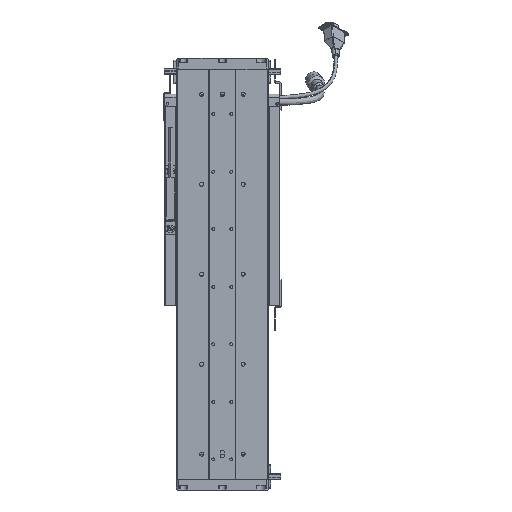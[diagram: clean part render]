
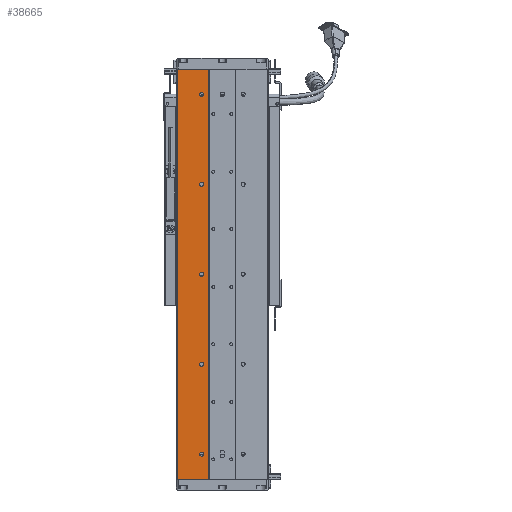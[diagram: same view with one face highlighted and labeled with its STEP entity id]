
A CAD part, front view. The second image highlights one B-rep face of the part: STEP entity #38665.
In plain terms, the highlighted planar face has unit normal (0, -1, 0).
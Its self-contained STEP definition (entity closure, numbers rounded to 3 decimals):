
#587 = VECTOR ( 'NONE', #48394, 1000. ) ;
#633 = CARTESIAN_POINT ( 'NONE',  ( -23., 0.5, 428. ) ) ;
#1584 = EDGE_CURVE ( 'NONE', #41320, #22678, #13159, .T. ) ;
#1966 = FACE_OUTER_BOUND ( 'NONE', #5797, .T. ) ;
#2302 = ORIENTED_EDGE ( 'NONE', *, *, #46335, .T. ) ;
#2683 = CIRCLE ( 'NONE', #46368, 2.25 ) ;
#2895 = DIRECTION ( 'NONE',  ( 0., 0., 1. ) ) ;
#3099 = DIRECTION ( 'NONE',  ( 0., 1., 0. ) ) ;
#3250 = CARTESIAN_POINT ( 'NONE',  ( -50., 0.5, 0. ) ) ;
#3459 = EDGE_CURVE ( 'NONE', #22678, #33540, #60959, .T. ) ;
#3544 = FACE_BOUND ( 'NONE', #5464, .T. ) ;
#4076 = DIRECTION ( 'NONE',  ( 0., 1., 0. ) ) ;
#5464 = EDGE_LOOP ( 'NONE', ( #49079, #21620 ) ) ;
#5566 = ORIENTED_EDGE ( 'NONE', *, *, #1584, .T. ) ;
#5797 = EDGE_LOOP ( 'NONE', ( #5566, #47318, #21130, #50857 ) ) ;
#5923 = AXIS2_PLACEMENT_3D ( 'NONE', #14562, #29080, #63527 ) ;
#7271 = AXIS2_PLACEMENT_3D ( 'NONE', #19538, #23654, #29310 ) ;
#8128 = VERTEX_POINT ( 'NONE', #22176 ) ;
#8233 = AXIS2_PLACEMENT_3D ( 'NONE', #59126, #29255, #38783 ) ;
#8273 = DIRECTION ( 'NONE',  ( 0., 1., 0. ) ) ;
#8313 = VERTEX_POINT ( 'NONE', #47749 ) ;
#9754 = EDGE_LOOP ( 'NONE', ( #15199, #15422 ) ) ;
#9983 = DIRECTION ( 'NONE',  ( 0., 0., 1. ) ) ;
#10069 = EDGE_CURVE ( 'NONE', #8128, #41320, #63692, .T. ) ;
#11351 = CARTESIAN_POINT ( 'NONE',  ( -23., 0.5, 330.25 ) ) ;
#11661 = DIRECTION ( 'NONE',  ( 0., 0., 1. ) ) ;
#11873 = CARTESIAN_POINT ( 'NONE',  ( -23., 0.5, 28. ) ) ;
#12037 = LINE ( 'NONE', #13942, #587 ) ;
#13159 = LINE ( 'NONE', #13814, #20906 ) ;
#13480 = CARTESIAN_POINT ( 'NONE',  ( -23., 0.5, 125.75 ) ) ;
#13742 = CARTESIAN_POINT ( 'NONE',  ( -23., 0.5, 328. ) ) ;
#13814 = CARTESIAN_POINT ( 'NONE',  ( -64.681, 0.5, 456. ) ) ;
#13942 = CARTESIAN_POINT ( 'NONE',  ( -64.681, 0.5, 0. ) ) ;
#14007 = AXIS2_PLACEMENT_3D ( 'NONE', #27781, #3099, #2895 ) ;
#14562 = CARTESIAN_POINT ( 'NONE',  ( -23., 0.5, 428. ) ) ;
#15030 = EDGE_CURVE ( 'NONE', #54848, #31839, #56047, .T. ) ;
#15199 = ORIENTED_EDGE ( 'NONE', *, *, #24462, .T. ) ;
#15409 = CARTESIAN_POINT ( 'NONE',  ( -15., 0.5, 456. ) ) ;
#15422 = ORIENTED_EDGE ( 'NONE', *, *, #56447, .T. ) ;
#16973 = EDGE_LOOP ( 'NONE', ( #39559, #45883 ) ) ;
#17042 = DIRECTION ( 'NONE',  ( 0., 1., 0. ) ) ;
#17116 = ORIENTED_EDGE ( 'NONE', *, *, #62914, .T. ) ;
#17182 = VECTOR ( 'NONE', #37112, 1000. ) ;
#17416 = CARTESIAN_POINT ( 'NONE',  ( -50., 0.5, 0. ) ) ;
#17964 = DIRECTION ( 'NONE',  ( 0., 0., -1. ) ) ;
#18347 = DIRECTION ( 'NONE',  ( 0., 0., 1. ) ) ;
#18832 = CARTESIAN_POINT ( 'NONE',  ( -23., 0.5, 128. ) ) ;
#19538 = CARTESIAN_POINT ( 'NONE',  ( -23., 0.5, 328. ) ) ;
#19977 = AXIS2_PLACEMENT_3D ( 'NONE', #633, #39639, #9983 ) ;
#20040 = DIRECTION ( 'NONE',  ( 0., 0., 1. ) ) ;
#20262 = CIRCLE ( 'NONE', #40565, 2.25 ) ;
#20906 = VECTOR ( 'NONE', #53674, 1000. ) ;
#21130 = ORIENTED_EDGE ( 'NONE', *, *, #55932, .F. ) ;
#21202 = CARTESIAN_POINT ( 'NONE',  ( -23., 0.5, 30.25 ) ) ;
#21620 = ORIENTED_EDGE ( 'NONE', *, *, #35607, .T. ) ;
#22176 = CARTESIAN_POINT ( 'NONE',  ( -15., 0.5, 0. ) ) ;
#22580 = CARTESIAN_POINT ( 'NONE',  ( -15., 0.5, 0. ) ) ;
#22598 = DIRECTION ( 'NONE',  ( 0., 1., 0. ) ) ;
#22678 = VERTEX_POINT ( 'NONE', #42683 ) ;
#22684 = CIRCLE ( 'NONE', #7271, 2.25 ) ;
#23654 = DIRECTION ( 'NONE',  ( 0., 1., 0. ) ) ;
#23759 = DIRECTION ( 'NONE',  ( 0., 0., 1. ) ) ;
#24058 = VERTEX_POINT ( 'NONE', #49812 ) ;
#24093 = EDGE_CURVE ( 'NONE', #31839, #54848, #28203, .T. ) ;
#24462 = EDGE_CURVE ( 'NONE', #24058, #48917, #52962, .T. ) ;
#25322 = CARTESIAN_POINT ( 'NONE',  ( -23., 0.5, 425.75 ) ) ;
#25822 = VERTEX_POINT ( 'NONE', #39643 ) ;
#27781 = CARTESIAN_POINT ( 'NONE',  ( -64.681, 0.5, 0. ) ) ;
#28203 = CIRCLE ( 'NONE', #19977, 2.25 ) ;
#28326 = FACE_BOUND ( 'NONE', #16973, .T. ) ;
#29080 = DIRECTION ( 'NONE',  ( 0., 1., 0. ) ) ;
#29255 = DIRECTION ( 'NONE',  ( 0., 1., 0. ) ) ;
#29310 = DIRECTION ( 'NONE',  ( 0., 0., 1. ) ) ;
#29895 = FACE_BOUND ( 'NONE', #63382, .T. ) ;
#30962 = CARTESIAN_POINT ( 'NONE',  ( -23., 0.5, 430.25 ) ) ;
#31839 = VERTEX_POINT ( 'NONE', #30962 ) ;
#32348 = VECTOR ( 'NONE', #17964, 1000. ) ;
#32673 = CIRCLE ( 'NONE', #8233, 2.25 ) ;
#33329 = CIRCLE ( 'NONE', #53578, 2.25 ) ;
#33540 = VERTEX_POINT ( 'NONE', #17416 ) ;
#33634 = CARTESIAN_POINT ( 'NONE',  ( -23., 0.5, 325.75 ) ) ;
#35607 = EDGE_CURVE ( 'NONE', #25822, #58738, #47359, .T. ) ;
#36599 = VERTEX_POINT ( 'NONE', #33634 ) ;
#37112 = DIRECTION ( 'NONE',  ( 0., 0., 1. ) ) ;
#37872 = CARTESIAN_POINT ( 'NONE',  ( -23., 0.5, 128. ) ) ;
#38665 = ADVANCED_FACE ( 'NONE', ( #3544, #54699, #29895, #41515, #28326, #1966 ), #57035, .F. ) ;
#38783 = DIRECTION ( 'NONE',  ( 0., 0., 1. ) ) ;
#39279 = EDGE_CURVE ( 'NONE', #58738, #25822, #2683, .T. ) ;
#39559 = ORIENTED_EDGE ( 'NONE', *, *, #42279, .T. ) ;
#39639 = DIRECTION ( 'NONE',  ( 0., 1., 0. ) ) ;
#39643 = CARTESIAN_POINT ( 'NONE',  ( -23., 0.5, 25.75 ) ) ;
#40565 = AXIS2_PLACEMENT_3D ( 'NONE', #18832, #8273, #47901 ) ;
#41320 = VERTEX_POINT ( 'NONE', #15409 ) ;
#41515 = FACE_BOUND ( 'NONE', #50219, .T. ) ;
#42279 = EDGE_CURVE ( 'NONE', #8313, #64121, #33329, .T. ) ;
#42613 = DIRECTION ( 'NONE',  ( 0., 1., 0. ) ) ;
#42683 = CARTESIAN_POINT ( 'NONE',  ( -50., 0.5, 456. ) ) ;
#43976 = VERTEX_POINT ( 'NONE', #11351 ) ;
#44454 = AXIS2_PLACEMENT_3D ( 'NONE', #37872, #42613, #18347 ) ;
#45883 = ORIENTED_EDGE ( 'NONE', *, *, #56971, .T. ) ;
#46335 = EDGE_CURVE ( 'NONE', #43976, #36599, #61537, .T. ) ;
#46368 = AXIS2_PLACEMENT_3D ( 'NONE', #48485, #4076, #23759 ) ;
#47317 = DIRECTION ( 'NONE',  ( 0., 0., 1. ) ) ;
#47318 = ORIENTED_EDGE ( 'NONE', *, *, #3459, .T. ) ;
#47359 = CIRCLE ( 'NONE', #62888, 2.25 ) ;
#47749 = CARTESIAN_POINT ( 'NONE',  ( -23., 0.5, 230.25 ) ) ;
#47901 = DIRECTION ( 'NONE',  ( 0., 0., 1. ) ) ;
#48394 = DIRECTION ( 'NONE',  ( -1., 0., 0. ) ) ;
#48485 = CARTESIAN_POINT ( 'NONE',  ( -23., 0.5, 28. ) ) ;
#48917 = VERTEX_POINT ( 'NONE', #13480 ) ;
#49079 = ORIENTED_EDGE ( 'NONE', *, *, #39279, .T. ) ;
#49721 = DIRECTION ( 'NONE',  ( 0., 1., 0. ) ) ;
#49812 = CARTESIAN_POINT ( 'NONE',  ( -23., 0.5, 130.25 ) ) ;
#50219 = EDGE_LOOP ( 'NONE', ( #2302, #17116 ) ) ;
#50857 = ORIENTED_EDGE ( 'NONE', *, *, #10069, .T. ) ;
#51915 = CARTESIAN_POINT ( 'NONE',  ( -23., 0.5, 225.75 ) ) ;
#52962 = CIRCLE ( 'NONE', #44454, 2.25 ) ;
#53578 = AXIS2_PLACEMENT_3D ( 'NONE', #54723, #49721, #20040 ) ;
#53674 = DIRECTION ( 'NONE',  ( -1., 0., 0. ) ) ;
#54699 = FACE_BOUND ( 'NONE', #9754, .T. ) ;
#54723 = CARTESIAN_POINT ( 'NONE',  ( -23., 0.5, 228. ) ) ;
#54848 = VERTEX_POINT ( 'NONE', #25322 ) ;
#55706 = ORIENTED_EDGE ( 'NONE', *, *, #24093, .T. ) ;
#55932 = EDGE_CURVE ( 'NONE', #8128, #33540, #12037, .T. ) ;
#56047 = CIRCLE ( 'NONE', #5923, 2.25 ) ;
#56447 = EDGE_CURVE ( 'NONE', #48917, #24058, #20262, .T. ) ;
#56971 = EDGE_CURVE ( 'NONE', #64121, #8313, #32673, .T. ) ;
#57035 = PLANE ( 'NONE',  #14007 ) ;
#58054 = ORIENTED_EDGE ( 'NONE', *, *, #15030, .T. ) ;
#58738 = VERTEX_POINT ( 'NONE', #21202 ) ;
#59126 = CARTESIAN_POINT ( 'NONE',  ( -23., 0.5, 228. ) ) ;
#60959 = LINE ( 'NONE', #3250, #32348 ) ;
#61537 = CIRCLE ( 'NONE', #62087, 2.25 ) ;
#62087 = AXIS2_PLACEMENT_3D ( 'NONE', #13742, #22598, #47317 ) ;
#62888 = AXIS2_PLACEMENT_3D ( 'NONE', #11873, #17042, #11661 ) ;
#62914 = EDGE_CURVE ( 'NONE', #36599, #43976, #22684, .T. ) ;
#63382 = EDGE_LOOP ( 'NONE', ( #55706, #58054 ) ) ;
#63527 = DIRECTION ( 'NONE',  ( 0., 0., 1. ) ) ;
#63692 = LINE ( 'NONE', #22580, #17182 ) ;
#64121 = VERTEX_POINT ( 'NONE', #51915 ) ;
